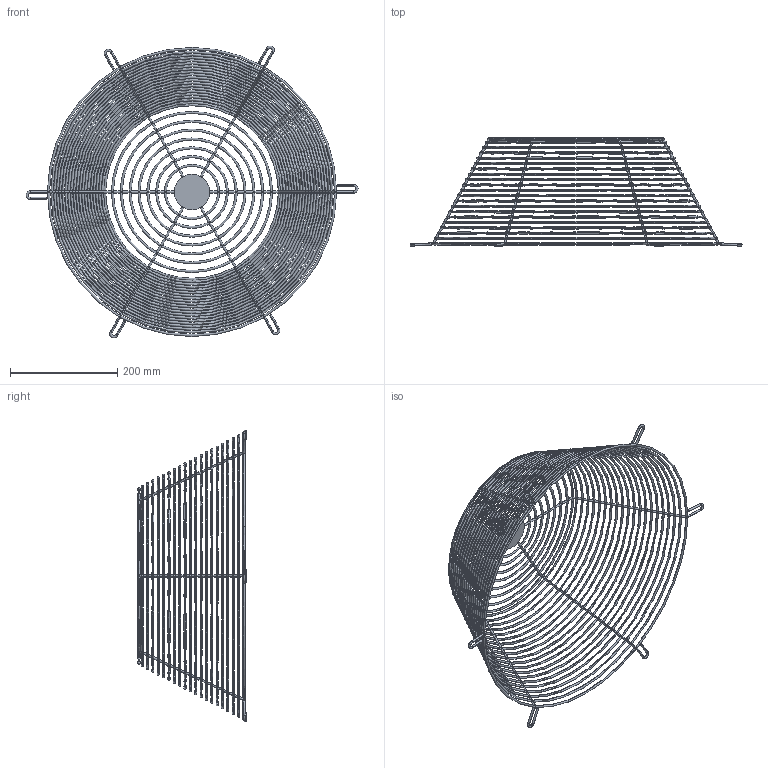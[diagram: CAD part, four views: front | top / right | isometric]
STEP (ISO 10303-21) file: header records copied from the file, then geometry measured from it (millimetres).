
FILE_DESCRIPTION(('STEP AP214'),'1');
FILE_NAME('accessory_5120642300.stp','2017-10-09T10:17:30',('TraceParts'),('TraceParts S.A.'),'Spatial InterOp 3D',' ',' ');
FILE_SCHEMA(('automotive_design'));
Length unit declared in the file: millimetre
Products named in the file (1): accessory_5120642300
Bounding box: 620 x 202 x 545.08 mm (x, y, z)
Volume: 451667.2 mm3; surface area: 441239.6 mm2
Topology: 1 solids, 1 shells, 302 faces, 1748 edges, 1092 vertices
Faces by surface type: torus 160, cylinder 92, plane 38, sphere 12
Entity records: 38450 total; most frequent: CARTESIAN_POINT 23919, ORIENTED_EDGE 3448, DIRECTION 1836, EDGE_CURVE 1724, VERTEX_POINT 1092, B_SPLINE_CURVE_WITH_KNOTS 972, AXIS2_PLACEMENT_3D 781, CIRCLE 454
